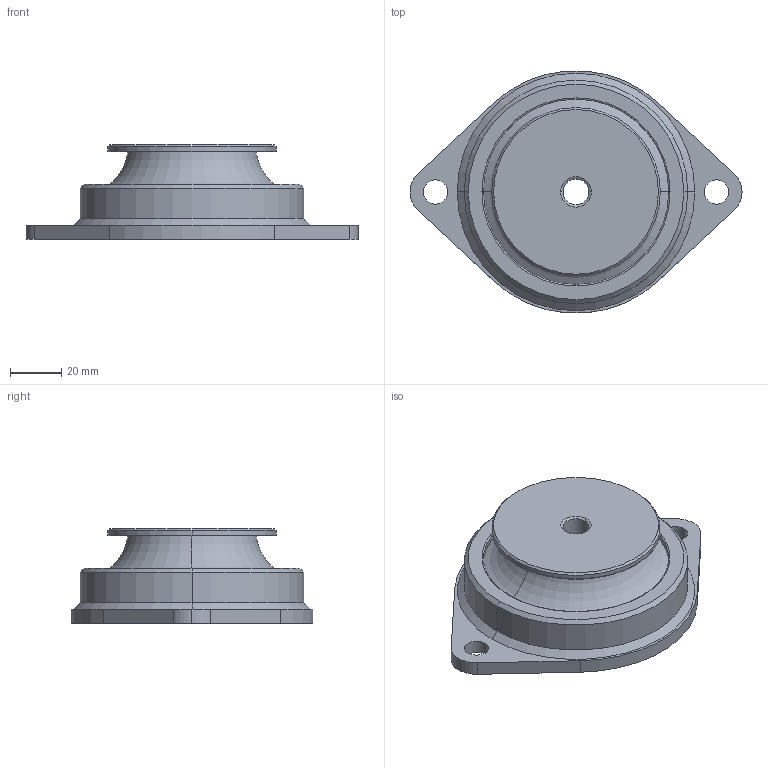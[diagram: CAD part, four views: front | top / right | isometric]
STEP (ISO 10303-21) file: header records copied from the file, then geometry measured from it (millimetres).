
FILE_DESCRIPTION(('STEP AP214'),'1');
FILE_NAME('U:/Inhalte (Daten)/Content neue Seite/CAD Files/EluFlex_90_SF.stp','2015-11-10T16:06:11',(' '),(' '),'Spatial InterOp 3D',' ',' ');
FILE_SCHEMA(('automotive_design'));
Length unit declared in the file: millimetre
Products named in the file (2): 1; 2
Bounding box: 130 x 94.67 x 37 mm (x, y, z)
Volume: 147527.3 mm3; surface area: 43290.2 mm2
Topology: 2 solids, 2 shells, 73 faces, 172 edges, 106 vertices
Faces by surface type: cylinder 26, torus 22, cone 14, plane 11
Entity records: 2184 total; most frequent: DIRECTION 442, CARTESIAN_POINT 353, ORIENTED_EDGE 344, AXIS2_PLACEMENT_3D 195, EDGE_CURVE 172, CIRCLE 120, VERTEX_POINT 106, EDGE_LOOP 84
